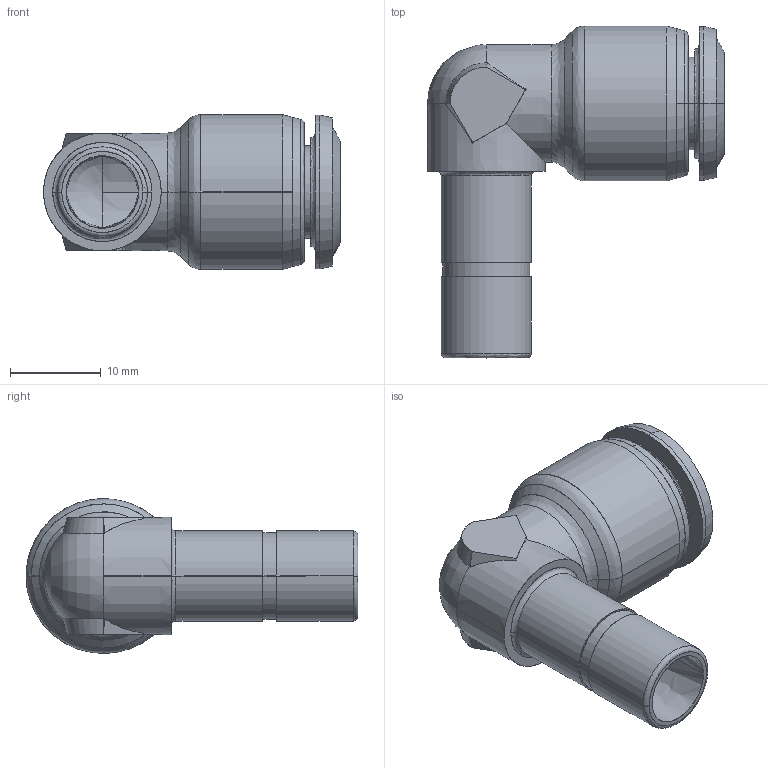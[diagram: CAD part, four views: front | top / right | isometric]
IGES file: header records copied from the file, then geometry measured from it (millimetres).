
Start section: SolidWorks IGES file using analytic representation for surfaces
Global section: file name: K:\Disegni Esecutivi\SERIE 55000\ASSIEMI_55000\55140\ASSIEMI_.IGES_55140\5514000009.igs; native system: SolidWorks 2016; preprocessor: SolidWorks 2016; author: Cad01; date: 160722.111122; units: millimetre
Bounding box: 32.8 x 36.65 x 17.1 mm (x, y, z)
Surface area: 3620.5 mm2 (no closed solid volume)
Topology: 0 solids, 0 shells, 117 faces, 1413 edges, 1412 vertices
Faces by surface type: bspline 73, revolution 44
